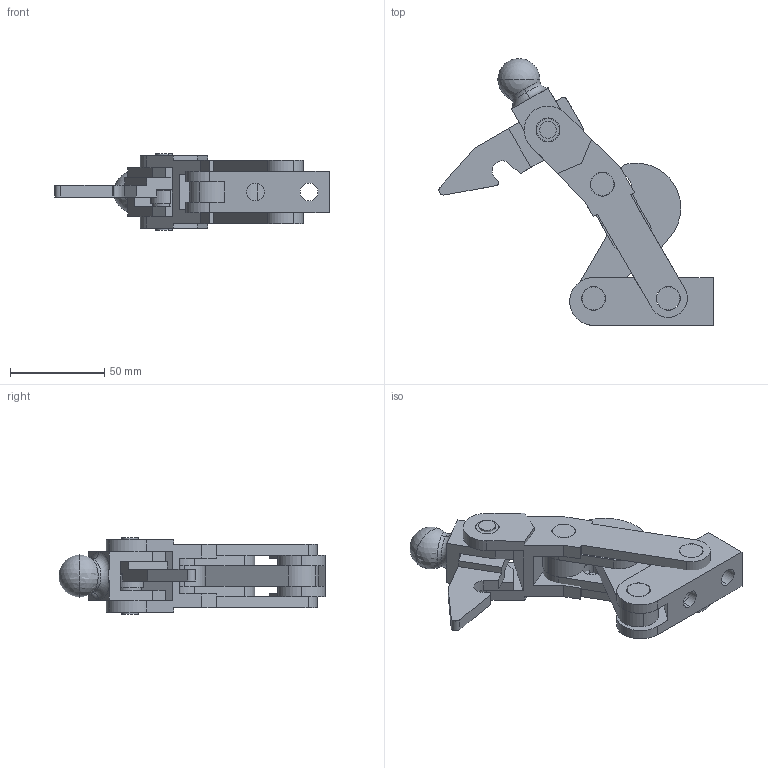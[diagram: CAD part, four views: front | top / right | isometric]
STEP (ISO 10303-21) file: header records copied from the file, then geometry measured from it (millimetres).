
FILE_DESCRIPTION( ( '' ), '1' );
FILE_NAME( 'C:\Documents and Settings\Richard Grenzke\My Documents\Wolverine Company Data\WOLVERINE CD 5_17_05\SOLIDS STEP\heavy_duty_compact\lyt1033.stp', ' ', ( '' ), ( '' ), 'ACIS Interop R16', 'Kubotek KeyCreator V5.5.1 (0454)', ' ' );
FILE_SCHEMA( ( 'CONFIG_CONTROL_DESIGN' ) );
Length unit declared in the file: inch
Products named in the file (13): 1; 2; 3; 4; 5; 6; 7; 8; 9; 10; 11; 12; 13
Bounding box: 145.67 x 141.73 x 40.89 mm (x, y, z)
Volume: 142614.1 mm3; surface area: 60874.1 mm2
Topology: 13 solids, 13 shells, 223 faces, 632 edges, 434 vertices
Faces by surface type: plane 109, cylinder 102, torus 6, cone 4, sphere 2
Entity records: 8064 total; most frequent: DIRECTION 1378, CARTESIAN_POINT 1316, ORIENTED_EDGE 1256, EDGE_CURVE 628, AXIS2_PLACEMENT_3D 516, VERTEX_POINT 434, LINE 346, VECTOR 346
